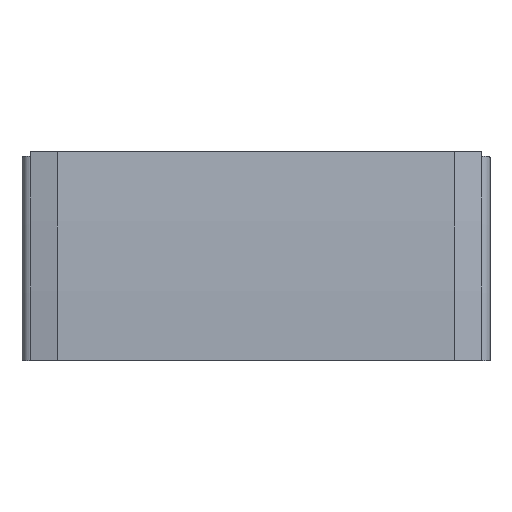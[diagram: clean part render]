
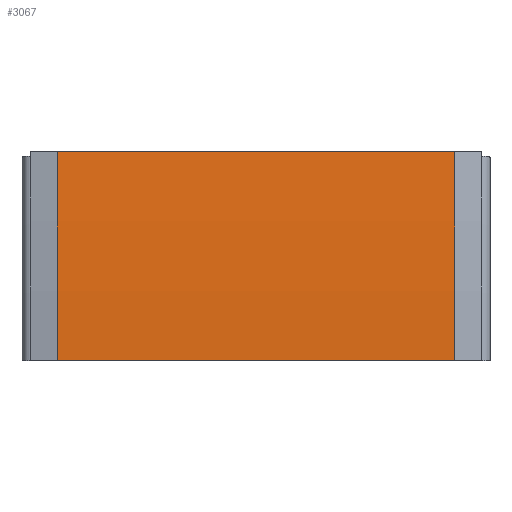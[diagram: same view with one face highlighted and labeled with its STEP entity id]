
A CAD part, front view. The second image highlights one B-rep face of the part: STEP entity #3067.
In plain terms, the highlighted cylindrical face has radius 442.5 mm (diameter 885 mm), a partial arc.
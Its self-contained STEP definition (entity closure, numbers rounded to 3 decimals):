
#3009=CARTESIAN_POINT('',(-36.5,-11.,0.));
#3010=VERTEX_POINT('',#3009);
#3017=CARTESIAN_POINT('',(-36.5,-9.316,38.566));
#3018=VERTEX_POINT('',#3017);
#3019=CARTESIAN_POINT('',(-36.5,431.5,0.0));
#3020=DIRECTION('',(1.,0.0,0.0));
#3021=DIRECTION('',(0.0,-0.996,0.087));
#3022=AXIS2_PLACEMENT_3D('',#3019,#3020,#3021);
#3023=CIRCLE('',#3022,442.5);
#3024=EDGE_CURVE('',#3018,#3010,#3023,.T.);
#3036=CARTESIAN_POINT('',(0.,431.5,0.0));
#3037=DIRECTION('',(1.0,0.0,0.0));
#3038=DIRECTION('',(0.0,-0.996,0.087));
#3039=AXIS2_PLACEMENT_3D('',#3036,#3037,#3038);
#3040=CYLINDRICAL_SURFACE('',#3039,442.5);
#3041=CARTESIAN_POINT('',(36.5,-11.,0.));
#3042=VERTEX_POINT('',#3041);
#3043=CARTESIAN_POINT('',(-36.5,-11.,0.));
#3044=DIRECTION('',(1.0,0.0,0.0));
#3045=VECTOR('',#3044,73.);
#3046=LINE('',#3043,#3045);
#3047=EDGE_CURVE('',#3010,#3042,#3046,.T.);
#3048=ORIENTED_EDGE('',*,*,#3047,.T.);
#3049=CARTESIAN_POINT('',(36.5,-9.316,38.566));
#3050=VERTEX_POINT('',#3049);
#3051=CARTESIAN_POINT('',(36.5,431.5,0.0));
#3052=DIRECTION('',(1.0,0.0,0.0));
#3053=DIRECTION('',(0.0,-0.996,0.087));
#3054=AXIS2_PLACEMENT_3D('',#3051,#3052,#3053);
#3055=CIRCLE('',#3054,442.5);
#3056=EDGE_CURVE('',#3050,#3042,#3055,.T.);
#3057=ORIENTED_EDGE('',*,*,#3056,.F.);
#3058=CARTESIAN_POINT('',(-36.5,-9.316,38.566));
#3059=DIRECTION('',(1.0,0.0,0.0));
#3060=VECTOR('',#3059,73.);
#3061=LINE('',#3058,#3060);
#3062=EDGE_CURVE('',#3018,#3050,#3061,.T.);
#3063=ORIENTED_EDGE('',*,*,#3062,.F.);
#3064=ORIENTED_EDGE('',*,*,#3024,.T.);
#3065=EDGE_LOOP('',(#3048,#3057,#3063,#3064));
#3066=FACE_OUTER_BOUND('',#3065,.T.);
#3067=ADVANCED_FACE('',(#3066),#3040,.T.);
